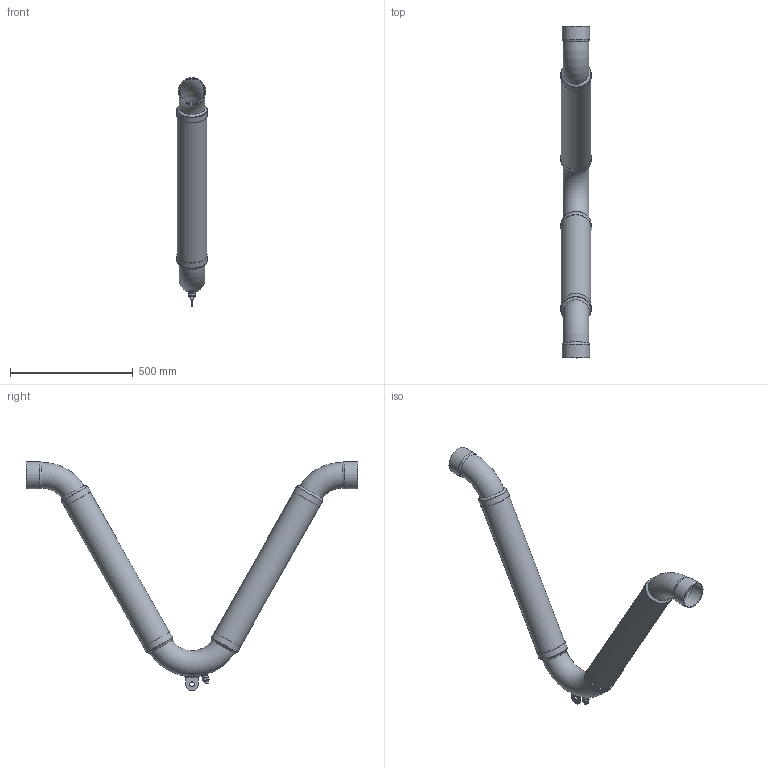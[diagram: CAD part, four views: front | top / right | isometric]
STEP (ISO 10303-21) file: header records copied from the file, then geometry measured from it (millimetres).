
FILE_DESCRIPTION((''),'2;1');
FILE_NAME('C:\REVIT SHARED FILES\STP\VCPSB\VCPSB-4.stp','2013-08-08T10:42:46',('rramoutar'),(''),'Autodesk Inventor 2012','Autodesk Inventor 2012','');
FILE_SCHEMA(('AUTOMOTIVE_DESIGN { 1 0 10303 214 1 1 1 1 }'));
Length unit declared in the file: inch
Products named in the file (9): A-31298 -2 VCPSB 4.0 inch.iam (NO HOSE); A-31298 -2 VCPSB 4.0 inch.iam (NO HOSE)_Welds; B-1501-3 VCPSB 4.0  inch 120 DEGREE ELBOW; A-31301-2 COPPER FEMALE ADAPTER 0.5 inch; A-31301-2 BRASS, CAST PLUG 0.5 inch; A-31304 VCPS & VCPSB 3.0 inch & 4.0 inch SUPPORT CLIP; A-31011 BRONZE HOSE BRAID COLLAR 4.0 inch; B-1500-3 VCPSB 4.0  inch 60 DEGREE ELBOW; A-31298-2 VCPSB 4.0 inch PHOSPHOR BRONZE BRAID
Assembly tree (13 placements, depth 2):
  A-31298 -2 VCPSB 4.0 inch.iam (NO HOSE)
    A-31298 -2 VCPSB 4.0 inch.iam (NO HOSE)_Welds
    B-1501-3 VCPSB 4.0  inch 120 DEGREE ELBOW
    A-31301-2 COPPER FEMALE ADAPTER 0.5 inch
    A-31301-2 BRASS, CAST PLUG 0.5 inch
    A-31304 VCPS & VCPSB 3.0 inch & 4.0 inch SUPPORT CLIP
    A-31011 BRONZE HOSE BRAID COLLAR 4.0 inch  x4
    B-1500-3 VCPSB 4.0  inch 60 DEGREE ELBOW  x2
    A-31298-2 VCPSB 4.0 inch PHOSPHOR BRONZE BRAID  x2
Bounding box: 123.78 x 1354.14 x 933.79 mm (x, y, z)
Volume: 1214273.9 mm3; surface area: 1714769.1 mm2
Topology: 18 solids, 18 shells, 107 faces, 225 edges, 149 vertices
Faces by surface type: plane 52, cylinder 26, torus 12, bspline 9, cone 8
Full cylindrical faces by diameter (mm): 14.408 x1, 15.767 x1, 18.256 x3, 19.05 x1, 20.32 x1, 21.336 x1, 24.74 x1, 105.004 x2, 111.811 x2, 119.888 x2, 120.701 x6, 123.876 x4
Entity records: 7239 total; most frequent: CARTESIAN_POINT 5317, DIRECTION 326, ORIENTED_EDGE 284, AXIS2_PLACEMENT_3D 144, EDGE_CURVE 142, EDGE_LOOP 135, VERTEX_POINT 111, FACE_OUTER_BOUND 83
